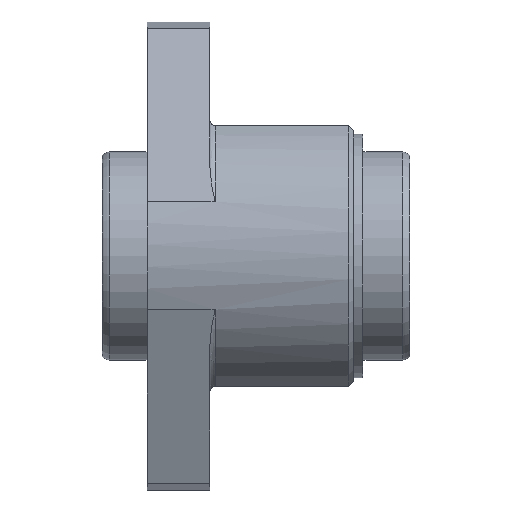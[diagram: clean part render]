
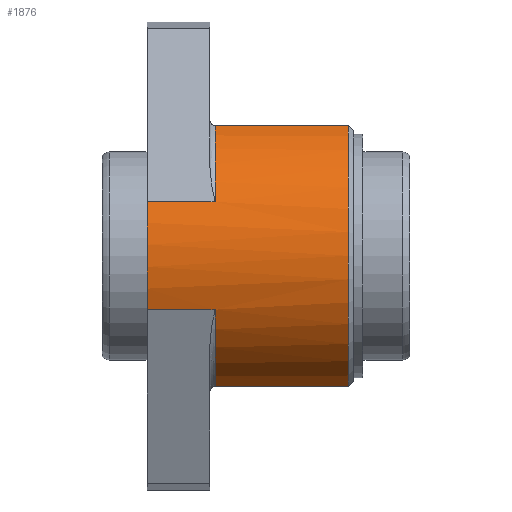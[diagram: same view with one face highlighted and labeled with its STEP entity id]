
A CAD part, top view. The second image highlights one B-rep face of the part: STEP entity #1876.
In plain terms, the highlighted cylindrical face has radius 27 mm (diameter 54 mm), a partial arc.
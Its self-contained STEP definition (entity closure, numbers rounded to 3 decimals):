
#1460=CARTESIAN_POINT('',(13.,10.332,24.945));
#1461=VERTEX_POINT('',#1460);
#1469=CARTESIAN_POINT('',(13.,25.0,10.198));
#1470=VERTEX_POINT('',#1469);
#1471=CARTESIAN_POINT('',(13.,0.0,0.0));
#1472=DIRECTION('',(-1.,0.0,0.0));
#1473=DIRECTION('',(0.0,0.709,0.705));
#1474=AXIS2_PLACEMENT_3D('',#1471,#1472,#1473);
#1475=CIRCLE('',#1474,27.0);
#1476=EDGE_CURVE('',#1461,#1470,#1475,.T.);
#1672=CARTESIAN_POINT('',(13.,-25.0,10.198));
#1673=VERTEX_POINT('',#1672);
#1674=CARTESIAN_POINT('',(13.,-10.332,24.945));
#1675=VERTEX_POINT('',#1674);
#1676=CARTESIAN_POINT('',(13.,0.0,0.0));
#1677=DIRECTION('',(-1.,0.0,0.0));
#1678=DIRECTION('',(0.0,-0.709,0.705));
#1679=AXIS2_PLACEMENT_3D('',#1676,#1677,#1678);
#1680=CIRCLE('',#1679,27.0);
#1681=EDGE_CURVE('',#1673,#1675,#1680,.T.);
#1821=CARTESIAN_POINT('',(0.0,0.0,0.0));
#1822=DIRECTION('',(1.0,0.0,0.0));
#1823=DIRECTION('',(0.0,1.0,0.0));
#1824=AXIS2_PLACEMENT_3D('',#1821,#1822,#1823);
#1825=CYLINDRICAL_SURFACE('',#1824,27.0);
#1826=CARTESIAN_POINT('',(0.0,10.332,24.945));
#1827=VERTEX_POINT('',#1826);
#1828=CARTESIAN_POINT('',(0.0,10.332,24.945));
#1829=DIRECTION('',(1.0,0.0,0.0));
#1830=VECTOR('',#1829,13.);
#1831=LINE('',#1828,#1830);
#1832=EDGE_CURVE('',#1827,#1461,#1831,.T.);
#1833=ORIENTED_EDGE('',*,*,#1832,.F.);
#1834=CARTESIAN_POINT('',(0.0,-10.332,24.945));
#1835=VERTEX_POINT('',#1834);
#1836=CARTESIAN_POINT('',(0.0,0.0,0.0));
#1837=DIRECTION('',(1.0,0.0,0.0));
#1838=DIRECTION('',(0.0,1.0,0.0));
#1839=AXIS2_PLACEMENT_3D('',#1836,#1837,#1838);
#1840=CIRCLE('',#1839,27.0);
#1841=EDGE_CURVE('',#1827,#1835,#1840,.T.);
#1842=ORIENTED_EDGE('',*,*,#1841,.T.);
#1843=CARTESIAN_POINT('',(0.0,-10.332,24.945));
#1844=DIRECTION('',(1.0,0.0,0.0));
#1845=VECTOR('',#1844,13.);
#1846=LINE('',#1843,#1845);
#1847=EDGE_CURVE('',#1835,#1675,#1846,.T.);
#1848=ORIENTED_EDGE('',*,*,#1847,.T.);
#1849=ORIENTED_EDGE('',*,*,#1681,.F.);
#1850=CARTESIAN_POINT('',(38.5,-25.0,10.198));
#1851=VERTEX_POINT('',#1850);
#1852=CARTESIAN_POINT('',(13.,-25.0,10.198));
#1853=DIRECTION('',(1.0,0.0,0.0));
#1854=VECTOR('',#1853,25.5);
#1855=LINE('',#1852,#1854);
#1856=EDGE_CURVE('',#1673,#1851,#1855,.T.);
#1857=ORIENTED_EDGE('',*,*,#1856,.T.);
#1858=CARTESIAN_POINT('',(38.5,25.0,10.198));
#1859=VERTEX_POINT('',#1858);
#1860=CARTESIAN_POINT('',(38.5,0.0,0.0));
#1861=DIRECTION('',(1.0,0.0,0.0));
#1862=DIRECTION('',(0.0,1.0,0.0));
#1863=AXIS2_PLACEMENT_3D('',#1860,#1861,#1862);
#1864=CIRCLE('',#1863,27.0);
#1865=EDGE_CURVE('',#1859,#1851,#1864,.T.);
#1866=ORIENTED_EDGE('',*,*,#1865,.F.);
#1867=CARTESIAN_POINT('',(13.,25.0,10.198));
#1868=DIRECTION('',(1.0,0.0,0.0));
#1869=VECTOR('',#1868,25.5);
#1870=LINE('',#1867,#1869);
#1871=EDGE_CURVE('',#1470,#1859,#1870,.T.);
#1872=ORIENTED_EDGE('',*,*,#1871,.F.);
#1873=ORIENTED_EDGE('',*,*,#1476,.F.);
#1874=EDGE_LOOP('',(#1833,#1842,#1848,#1849,#1857,#1866,#1872,#1873));
#1875=FACE_OUTER_BOUND('',#1874,.T.);
#1876=ADVANCED_FACE('',(#1875),#1825,.T.);
